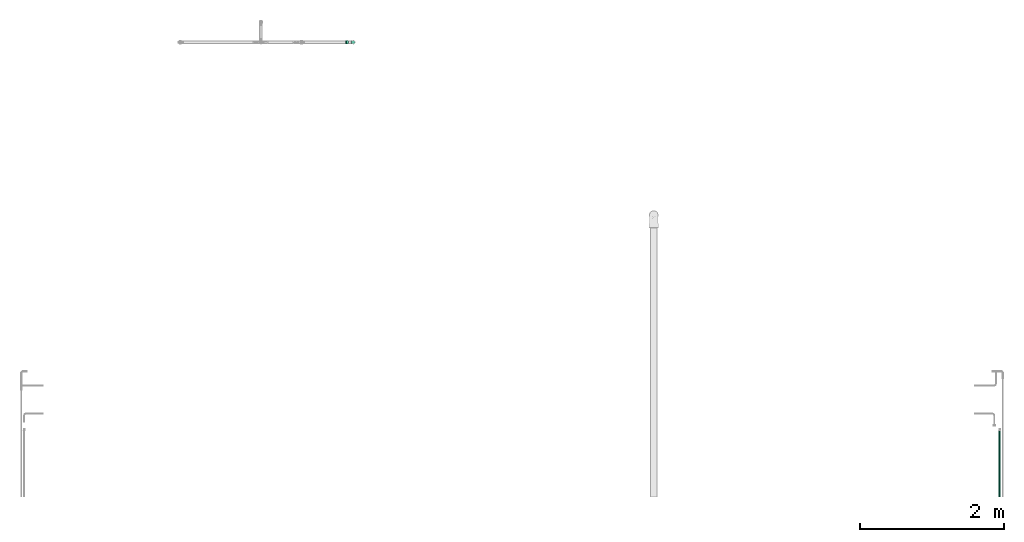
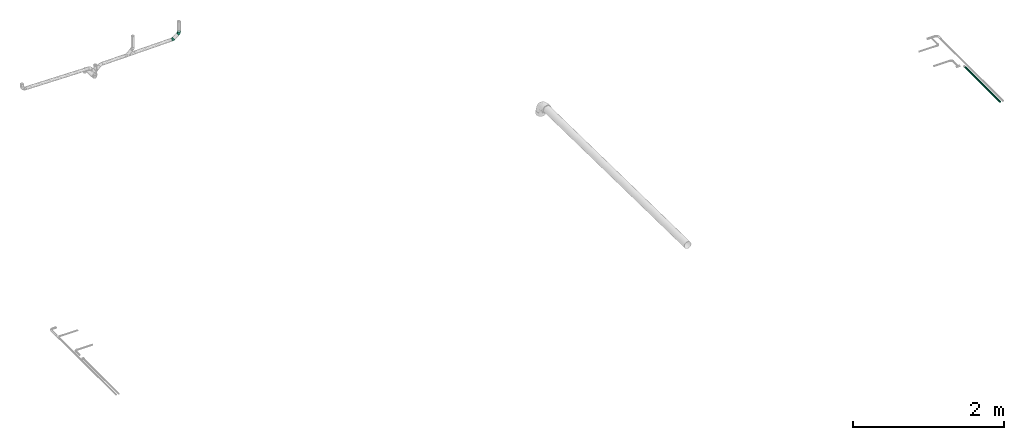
# One storey, part 13 of 13: 2 flow fittings, 1 flow segment.
"""IFC2X3 building model written with IfcOpenShell, lengths in millimetres."""

from ifc_helpers import new_model, entity, si_unit, converted_unit, derived_unit, direction, frame, origin_with_axes, place, context, subcontext, project, spatial, open_shell, faceted_brep, surface_model, source, transform, mapped, type_object, element, save


model = new_model("IFC2X3")

# Units and contexts
model_context = context("Model", 3, precision=0.01, world=frame((0.0, 4.29681676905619e-09, 0.0)), true_north=direction((4.01073788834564e-13, 1.0)))
plan_context = context("Plan", 3, precision=0.01, world=frame((0.0, 4.29681676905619e-09, 0.0)), true_north=direction((4.01073788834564e-13, 1.0)))
body_context = subcontext(model_context, "Body", "Model", "MODEL_VIEW")
ifc_project = project(units=[converted_unit("PLANEANGLEUNIT", "DEGREE", entity("IfcPositiveLengthMeasure", 0.0174532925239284), si_unit("PLANEANGLEUNIT", "RADIAN"), dimensions=[0, 0, 0, 0, 0, 0, 0]), si_unit("AREAUNIT", "SQUARE_METRE"), si_unit("LENGTHUNIT", "METRE", prefix="MILLI"), si_unit("MASSUNIT", "GRAM", prefix="KILO"), si_unit("POWERUNIT", "WATT"), si_unit("PRESSUREUNIT", "PASCAL", prefix="KILO"), si_unit("FORCEUNIT", "NEWTON", prefix="KILO"), si_unit("ELECTRICVOLTAGEUNIT", "VOLT"), si_unit("ELECTRICCURRENTUNIT", "AMPERE"), si_unit("THERMODYNAMICTEMPERATUREUNIT", "DEGREE_CELSIUS"), si_unit("TIMEUNIT", "SECOND"), si_unit("VOLUMEUNIT", "CUBIC_METRE"), derived_unit("LINEARVELOCITYUNIT", [(si_unit("LENGTHUNIT", "METRE"), 1), (si_unit("TIMEUNIT", "SECOND"), -1)]), derived_unit("VOLUMETRICFLOWRATEUNIT", [(si_unit("VOLUMEUNIT", "CUBIC_METRE"), 1), (si_unit("TIMEUNIT", "SECOND"), -1)]), derived_unit("THERMALTRANSMITTANCEUNIT", [(si_unit("POWERUNIT", "WATT"), 1), (si_unit("THERMODYNAMICTEMPERATUREUNIT", "KELVIN"), -1), (si_unit("AREAUNIT", "SQUARE_METRE"), -1)]), derived_unit("SOUNDPRESSUREUNIT", [(si_unit("PRESSUREUNIT", "PASCAL"), 1)])], contexts=[model_context, plan_context])

# Site, building, storey
site_placement = place(None, frame((0.0, -4.29681676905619e-09, 0.0), z_axis=(0.0, 0.0, 1.0), x_axis=(1.0, 0.0, 0.0)))
site = spatial("IfcSite", under=ifc_project, at=site_placement, Name="ENGM", CompositionType="ELEMENT")
building_placement = place(site_placement, frame((0.0, 4.29681676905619e-09, 0.0), z_axis=(0.0, 0.0, 1.0), x_axis=(1.0, 0.0, 0.0)))
building = spatial("IfcBuilding", under=site, at=building_placement, Name="TI", CompositionType="ELEMENT")
storey_placement = place(building_placement, frame((0.0, 0.0, 210900.0), z_axis=(0.0, 0.0, 1.0), x_axis=(1.0, 0.0, 0.0)))
storey = spatial("IfcBuildingStorey", under=building, at=storey_placement, Name="Nivå F", CompositionType="ELEMENT", Elevation=210900.0)

# Flow fittings
pipe_fitting_type = type_object("IfcPipeFittingType", Name="magi_pipe_elbow_short_001", PredefinedType="BEND")
shared_shape_1 = source(origin_with_axes(), body_context, "Body", "SurfaceModel", [
    surface_model("IfcShellBasedSurfaceModel", [(-15.92936, 6.47048, -24.14815), (-15.92936, 0.0, -25.0), (-15.92936, 24.14815, -6.47048), (-15.92936, 12.5, -21.65064), (-15.92936, 21.65064, -12.5), (-15.92936, 17.67767, -17.67767), (-15.92936, -17.67767, -17.67767), (-15.92936, -12.5, -21.65064), (-15.92936, -6.47048, -24.14815), (-15.92936, -21.65064, -12.5), (-15.92936, -24.14815, -6.47048), (-15.92936, -12.5, 21.65064), (-15.92936, -25.0, 0.0), (-15.92936, -24.14815, 6.47048), (-15.92936, 24.14815, 6.47048), (-15.92936, 25.0, 0.0), (-15.92936, 6.47048, 24.14815), (-15.92936, 21.65064, 12.5), (-15.92936, 17.67767, 17.67767), (-15.92936, 12.5, 21.65064), (-15.92936, -21.65064, 12.5), (-15.92936, -17.67767, 17.67767), (-15.92936, -6.47048, 24.14815), (-15.92936, 0.0, 25.0), (12.99373, 9.21453, -25.0), (9.25081, 14.49256, -24.14815), (5.76296, 19.4109, -21.65064), (2.76787, 23.63437, -17.67767), (23.21959, -5.20531, -17.67767), (0.46966, 26.87516, -12.5), (26.96251, -10.48334, 6.47048), (16.73665, 3.9365, -24.14815), (20.2245, -0.98184, -21.65064), (26.96251, -10.48334, -6.47048), (25.5178, -8.4461, -12.5), (27.45528, -11.17821, 0.0), (-0.97505, 28.9124, -6.47048), (9.25081, 14.49256, 24.14815), (-1.46782, 29.60726, 0.0), (-0.97505, 28.9124, 6.47048), (5.76296, 19.4109, 21.65064), (0.46966, 26.87516, 12.5), (2.76787, 23.63437, 17.67767), (23.21959, -5.20531, 17.67767), (25.5178, -8.4461, 12.5), (16.73665, 3.9365, 24.14815), (20.2245, -0.98184, 21.65064), (12.99373, 9.21453, 25.0), (-6.26646, -19.42706, 14.87076), (2.38959, -7.50057, 22.75776), (-7.98642, -9.37451, 22.95478), (-2.52114, -14.31372, 19.45813), (16.34942, -12.22193, 14.87076), (-3.86977, -2.46529, 24.70434), (-3.62659, -23.0876, 0.0), (1.43776, -22.58235, 4.27837), (-1.52348, 4.78198, 24.87036), (-1.90043, -21.98257, 8.96599), (5.44504, -17.0912, 14.43189), (11.9374, -3.02704, 22.95478), (-6.67183, 20.94192, 15.64089), (-5.22581, 16.40309, 20.19291), (11.31449, -19.45651, 4.4068), (14.26627, -16.83206, 8.96599), (11.14384, -9.82406, 19.48362), (-8.20001, 25.73867, 4.7882), (-8.3405, 26.17965, 0.0), (-7.70662, 24.18999, 10.00244), (-5.39311, 10.42788, 23.30475), (6.83722, -21.46106, 0.0), (6.99875, 1.4339, 24.72374), (16.31354, -16.73493, 0.0), (-6.5384, -2.87886, -24.72374), (11.31449, -19.45651, -4.4068), (1.43776, -22.58235, -4.27837), (-1.90043, -21.98257, -8.96599), (4.58269, 0.22756, -24.70434), (-1.52348, 4.78198, -24.87036), (-6.67183, 20.94192, -15.64089), (-5.22582, 16.40309, -20.19291), (14.26627, -16.83206, -8.96599), (-8.20001, 25.73867, -4.7882), (-7.70662, 24.18999, -10.00244), (10.33645, -10.21745, -19.45813), (5.44504, -17.0912, -14.43189), (-6.26646, -19.42706, -14.87076), (-3.40729, -14.45987, -19.48362), (-1.63292, 11.62583, -23.30475), (-7.98642, -9.37451, -22.95478), (2.38959, -7.50057, -22.75776), (11.9374, -3.02704, -22.95478), (16.34942, -12.22193, -14.87076)], [open_shell([[[0, 1, 2]], [[3, 0, 2]], [[2, 4, 5]], [[3, 2, 5]], [[6, 2, 1]], [[7, 6, 8]], [[6, 1, 8]], [[9, 10, 6]], [[11, 6, 10]], [[10, 12, 13]], [[2, 6, 11]], [[14, 15, 16]], [[17, 14, 18]], [[14, 16, 19]], [[18, 14, 19]], [[11, 16, 15]], [[20, 21, 13]], [[11, 13, 21]], [[10, 13, 11]], [[11, 22, 16]], [[22, 23, 16]], [[15, 2, 11]], [[24, 25, 26]], [[24, 26, 27]], [[28, 27, 29]], [[27, 28, 24]], [[29, 30, 28]], [[31, 28, 32]], [[31, 24, 28]], [[28, 33, 34]], [[35, 33, 30]], [[33, 28, 30]], [[29, 36, 30]], [[37, 38, 39]], [[40, 39, 41]], [[40, 37, 39]], [[40, 41, 42]], [[38, 37, 43]], [[30, 43, 44]], [[30, 38, 43]], [[43, 45, 46]], [[43, 37, 45]], [[47, 45, 37]], [[38, 30, 36]], [[20, 48, 21]], [[49, 50, 51]], [[11, 21, 51]], [[44, 43, 52]], [[23, 22, 53]], [[22, 11, 50]], [[13, 54, 55]], [[53, 56, 23]], [[23, 56, 16]], [[47, 37, 56]], [[48, 57, 58]], [[46, 45, 59]], [[18, 60, 17]], [[61, 18, 19]], [[57, 55, 62]], [[58, 57, 63]], [[58, 52, 64]], [[15, 65, 66]], [[20, 13, 57]], [[15, 14, 65]], [[14, 17, 67]], [[19, 16, 68]], [[68, 61, 19]], [[48, 51, 21]], [[69, 55, 54]], [[55, 69, 62]], [[70, 56, 53]], [[46, 64, 43]], [[42, 41, 60]], [[70, 45, 47]], [[13, 55, 57]], [[63, 44, 52]], [[57, 62, 63]], [[51, 64, 49]], [[71, 35, 30]], [[62, 30, 63]], [[69, 71, 62]], [[13, 12, 54]], [[65, 67, 39]], [[66, 65, 38]], [[49, 59, 70]], [[50, 53, 22]], [[37, 68, 56]], [[37, 40, 68]], [[58, 64, 51]], [[42, 60, 61]], [[16, 56, 68]], [[60, 41, 67]], [[40, 61, 68]], [[64, 46, 59]], [[61, 60, 18]], [[44, 63, 30]], [[30, 62, 71]], [[40, 42, 61]], [[60, 67, 17]], [[41, 39, 67]], [[56, 70, 47]], [[49, 70, 53]], [[57, 48, 20]], [[51, 48, 58]], [[64, 52, 43]], [[63, 52, 58]], [[67, 65, 14]], [[38, 65, 39]], [[51, 50, 11]], [[53, 50, 49]], [[70, 59, 45]], [[64, 59, 49]], [[8, 1, 72]], [[73, 74, 75]], [[24, 31, 76]], [[1, 0, 77]], [[78, 5, 4]], [[33, 35, 71]], [[5, 78, 79]], [[34, 33, 80]], [[2, 81, 82]], [[32, 28, 83]], [[84, 85, 86]], [[0, 3, 87]], [[74, 10, 75]], [[71, 69, 73]], [[33, 73, 80]], [[85, 75, 9]], [[7, 86, 6]], [[26, 25, 87]], [[9, 75, 10]], [[6, 85, 9]], [[88, 7, 8]], [[89, 88, 72]], [[0, 87, 77]], [[86, 7, 88]], [[15, 66, 81]], [[73, 75, 80]], [[38, 36, 81]], [[25, 77, 87]], [[33, 71, 73]], [[82, 4, 2]], [[78, 29, 27]], [[89, 83, 86]], [[87, 79, 26]], [[77, 76, 72]], [[3, 79, 87]], [[5, 79, 3]], [[84, 80, 75]], [[24, 77, 25]], [[90, 31, 32]], [[91, 83, 28]], [[27, 26, 79]], [[83, 89, 90]], [[80, 84, 91]], [[84, 86, 83]], [[74, 73, 69]], [[79, 78, 27]], [[54, 74, 69]], [[91, 28, 34]], [[90, 76, 31]], [[77, 24, 76]], [[54, 12, 10]], [[15, 81, 2]], [[10, 74, 54]], [[78, 4, 82]], [[36, 29, 82]], [[78, 82, 29]], [[77, 72, 1]], [[89, 72, 76]], [[86, 85, 6]], [[75, 85, 84]], [[80, 91, 34]], [[83, 91, 84]], [[38, 81, 66]], [[82, 81, 36]], [[72, 88, 8]], [[86, 88, 89]], [[83, 90, 32]], [[76, 90, 89]]])]),
])
flow_fitting_1_placement = place(storey_placement, frame((589771.1163, 576030.74709, 311.813170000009), z_axis=(0.0, -1.0, 0.0), x_axis=(0.999861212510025, 0.0, 0.0166600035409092)))
element("IfcFlowFitting", 1, at=flow_fitting_1_placement, inside=storey, type_object=pipe_fitting_type, Name="magi_pipe_elbow_short_001", context=body_context, shape_type="MappedRepresentation", body=[
    mapped(shared_shape_1, transform((0.0, 0.0, 0.0), scale=1.0)),
])
shared_shape_2 = source(origin_with_axes(), body_context, "Body", "SurfaceModel", [
    surface_model("IfcShellBasedSurfaceModel", [(-25.31311, 6.47048, -24.14815), (-25.31311, 0.0, -25.0), (-25.31311, 24.14815, -6.47048), (-25.31311, 12.5, -21.65064), (-25.31311, 21.65064, -12.5), (-25.31311, 17.67767, -17.67767), (-25.31311, -17.67767, -17.67767), (-25.31311, -12.5, -21.65064), (-25.31311, -6.47048, -24.14815), (-25.31311, -21.65064, -12.5), (-25.31311, -24.14815, -6.47048), (-25.31311, -12.5, 21.65064), (-25.31311, -25.0, 0.0), (-25.31311, -24.14815, 6.47048), (-25.31311, 24.14815, 6.47048), (-25.31311, 25.0, 0.0), (-25.31311, 6.47048, 24.14815), (-25.31311, 21.65064, 12.5), (-25.31311, 17.67767, 17.67767), (-25.31311, 12.5, 21.65064), (-25.31311, -21.65064, 12.5), (-25.31311, -17.67767, 17.67767), (-25.31311, -6.47048, 24.14815), (-25.31311, 0.0, 25.0), (14.98472, 20.40126, -25.0), (9.7698, 24.23162, -24.14815), (4.91026, 27.80095, -21.65064), (-4.47763, 34.69635, -6.47048), (0.73729, 30.866, -17.67767), (-2.46475, 33.21789, -12.5), (32.43419, 7.58463, -12.5), (20.19964, 16.5709, -24.14815), (29.23215, 9.93653, -17.67767), (25.05918, 13.00158, -21.65064), (35.13363, 5.60189, 0.0), (34.44708, 6.10617, -6.47048), (-4.47763, 34.69635, 6.47048), (4.91026, 27.80095, 21.65064), (0.73729, 30.866, 17.67767), (-2.46475, 33.21789, 12.5), (34.44708, 6.10617, 6.47048), (9.7698, 24.23162, 24.14815), (32.43419, 7.58463, 12.5), (25.05918, 13.00158, 21.65064), (29.23215, 9.93653, 17.67767), (20.19964, 16.5709, 24.14815), (14.98472, 20.40126, 25.0), (-5.16419, 35.20063, 0.0), (-13.01547, -23.06315, 0.0), (-7.89678, -21.44153, 8.43564), (-2.26022, -21.36921, 0.0), (6.01744, 14.30043, 24.87449), (8.16278, 7.24422, 24.6271), (14.86905, 4.95743, 22.75196), (3.04495, -4.35228, 22.29772), (-10.67068, -2.29045, 24.6271), (-12.79757, -9.04913, 22.75196), (-7.84389, -13.79935, 19.0853), (-3.45032, 6.81529, 24.94897), (-15.0877, 3.6157, 24.87449), (13.62582, -7.50452, 15.70921), (22.71013, -1.42232, 14.50803), (16.3049, -1.36622, 19.11712), (-13.35588, 10.45058, 23.44384), (-9.09724, 17.96943, 20.64534), (-18.04108, 15.49199, 20.1967), (7.89001, -16.46033, 5.90417), (-6.50599, 25.84433, 15.78526), (-3.53213, 23.83246, 19.24785), (-12.12702, -19.11998, 14.49847), (-15.28135, 20.97484, 15.90254), (-12.96291, 25.60514, 10.56682), (21.95563, -6.32839, 8.43564), (5.82304, -13.90341, 13.43185), (-11.67803, 28.34188, 5.41173), (-0.51636, 16.95074, 23.44384), (26.29272, -3.1629, 0.0), (-14.02117, 27.69547, 0.0), (5.06547, -9.20357, 18.74411), (-1.10389, 2.18047, 24.73967), (18.56065, -10.82839, 0.0), (8.15021, -16.0988, 0.0), (-10.67068, -2.29045, -24.6271), (7.89001, -16.46033, -5.90417), (-7.89678, -21.44153, -8.43564), (5.82304, -13.90341, -13.43185), (8.16278, 7.24422, -24.6271), (-15.0877, 3.6157, -24.87449), (-16.97802, 20.54274, -15.78526), (14.86905, 4.95743, -22.75196), (-7.85864, 24.73268, -15.90254), (-12.96291, 25.60514, -10.56682), (22.58389, -1.5496, -14.49808), (15.7443, -1.86532, -19.08408), (-15.92922, 26.18966, -5.41173), (-0.51636, 16.95074, -23.44384), (15.60576, -9.05422, -12.1565), (15.02496, -6.29923, -15.94063), (-13.35588, 10.45058, -23.44384), (-12.30217, -19.14605, -14.50829), (-8.57138, -13.95403, -19.11803), (21.95563, -6.32838, -8.43564), (-12.79757, -9.04913, -22.75196), (1.65842, -5.04998, -22.29932), (4.39533, -9.53765, -18.74807), (-1.10389, 2.18047, -24.73967), (-3.45032, 6.81529, -24.94897), (-1.80601, 23.71119, -20.1967), (-9.09724, 17.96943, -20.64534), (-17.117, 16.95496, -19.24785), (6.01744, 14.30043, -24.87449)], [open_shell([[[0, 1, 2]], [[3, 0, 2]], [[2, 4, 5]], [[3, 2, 5]], [[6, 2, 1]], [[7, 6, 8]], [[6, 1, 8]], [[9, 10, 6]], [[11, 6, 10]], [[10, 12, 13]], [[2, 6, 11]], [[14, 15, 16]], [[17, 14, 18]], [[14, 16, 19]], [[18, 14, 19]], [[11, 16, 15]], [[20, 21, 13]], [[11, 13, 21]], [[10, 13, 11]], [[11, 22, 16]], [[22, 23, 16]], [[15, 2, 11]], [[24, 25, 26]], [[24, 26, 27]], [[28, 29, 27]], [[28, 27, 26]], [[24, 27, 30]], [[31, 32, 33]], [[32, 31, 30]], [[30, 34, 35]], [[30, 31, 24]], [[27, 34, 30]], [[27, 36, 34]], [[34, 36, 37]], [[38, 36, 39]], [[37, 40, 34]], [[37, 36, 38]], [[41, 40, 37]], [[42, 43, 44]], [[42, 40, 41]], [[42, 45, 43]], [[42, 41, 45]], [[46, 45, 41]], [[36, 27, 47]], [[13, 48, 49]], [[48, 50, 49]], [[46, 51, 52]], [[52, 53, 45]], [[54, 55, 56]], [[20, 13, 49]], [[46, 41, 51]], [[57, 11, 21]], [[55, 58, 59]], [[23, 22, 55]], [[60, 61, 62]], [[22, 56, 55]], [[59, 16, 23]], [[63, 64, 65]], [[66, 49, 50]], [[38, 67, 68]], [[61, 44, 62]], [[65, 18, 19]], [[21, 20, 69]], [[17, 70, 71]], [[14, 17, 71]], [[66, 72, 73]], [[74, 15, 14]], [[73, 57, 69]], [[69, 57, 21]], [[19, 16, 63]], [[43, 62, 44]], [[53, 43, 45]], [[53, 54, 62]], [[46, 52, 45]], [[58, 75, 63]], [[42, 72, 40]], [[58, 51, 75]], [[61, 42, 44]], [[64, 63, 75]], [[72, 76, 40]], [[20, 49, 69]], [[59, 63, 16]], [[60, 72, 61]], [[14, 71, 74]], [[73, 49, 66]], [[77, 74, 47]], [[78, 54, 57]], [[36, 74, 71]], [[79, 54, 52]], [[71, 70, 67]], [[39, 36, 71]], [[39, 67, 38]], [[22, 11, 56]], [[41, 37, 75]], [[37, 68, 75]], [[17, 18, 70]], [[55, 79, 58]], [[55, 59, 23]], [[73, 69, 49]], [[54, 78, 62]], [[72, 42, 61]], [[65, 70, 18]], [[64, 68, 67]], [[11, 57, 56]], [[54, 56, 57]], [[54, 53, 52]], [[62, 43, 53]], [[13, 12, 48]], [[76, 72, 80]], [[76, 34, 40]], [[63, 59, 58]], [[75, 51, 41]], [[52, 51, 58]], [[66, 50, 81]], [[72, 66, 80]], [[71, 67, 39]], [[64, 67, 70]], [[75, 68, 64]], [[37, 38, 68]], [[63, 65, 19]], [[70, 65, 64]], [[57, 73, 78]], [[60, 78, 73]], [[47, 74, 36]], [[74, 77, 15]], [[54, 79, 55]], [[52, 58, 79]], [[78, 60, 62]], [[72, 60, 73]], [[80, 66, 81]], [[82, 8, 1]], [[83, 84, 85]], [[24, 31, 86]], [[0, 87, 1]], [[4, 88, 5]], [[31, 89, 86]], [[90, 88, 91]], [[32, 92, 93]], [[2, 94, 91]], [[26, 25, 95]], [[92, 96, 97]], [[3, 98, 0]], [[84, 48, 10]], [[85, 99, 100]], [[96, 92, 101]], [[10, 9, 84]], [[102, 7, 8]], [[103, 104, 100]], [[99, 9, 6]], [[35, 34, 76]], [[6, 7, 100]], [[27, 29, 91]], [[86, 105, 106]], [[29, 28, 90]], [[15, 77, 94]], [[30, 101, 92]], [[47, 27, 94]], [[105, 103, 82]], [[28, 26, 107]], [[91, 4, 2]], [[29, 90, 91]], [[82, 102, 8]], [[108, 107, 95]], [[1, 87, 82]], [[109, 98, 3]], [[88, 109, 5]], [[99, 6, 100]], [[110, 25, 24]], [[32, 93, 33]], [[83, 101, 80]], [[83, 50, 84]], [[89, 103, 86]], [[32, 30, 92]], [[106, 110, 86]], [[101, 35, 76]], [[31, 33, 89]], [[101, 76, 80]], [[110, 95, 25]], [[106, 87, 98]], [[30, 35, 101]], [[99, 85, 84]], [[104, 103, 93]], [[108, 95, 98]], [[27, 91, 94]], [[106, 98, 95]], [[102, 103, 100]], [[84, 9, 99]], [[107, 90, 28]], [[108, 109, 88]], [[33, 93, 89]], [[103, 89, 93]], [[103, 102, 82]], [[100, 7, 102]], [[48, 84, 50]], [[48, 12, 10]], [[98, 87, 0]], [[82, 87, 106]], [[86, 110, 24]], [[95, 110, 106]], [[83, 85, 96]], [[83, 80, 81]], [[91, 88, 4]], [[108, 88, 90]], [[98, 109, 108]], [[3, 5, 109]], [[95, 107, 26]], [[90, 107, 108]], [[97, 93, 92]], [[85, 100, 104]], [[15, 94, 2]], [[94, 77, 47]], [[103, 105, 86]], [[82, 106, 105]], [[83, 96, 101]], [[85, 104, 97]], [[85, 97, 96]], [[104, 93, 97]], [[81, 50, 83]]])]),
])
flow_fitting_2_placement = place(storey_placement, frame((589866.28092, 576030.74709, 382.006709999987), z_axis=(0.0, -1.0, 0.0), x_axis=(0.805956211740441, 0.0, 0.591975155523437)))
element("IfcFlowFitting", 2, at=flow_fitting_2_placement, inside=storey, type_object=pipe_fitting_type, Name="magi_pipe_elbow_short_001", context=body_context, shape_type="MappedRepresentation", body=[
    mapped(shared_shape_2, transform((0.0, 0.0, 0.0), scale=1.0)),
])

# Flow segment
pipe_segment_type = type_object("IfcPipeSegmentType", Name="Stålrør normaltykke", PredefinedType="RIGIDSEGMENT")
flow_segment_placement = place(storey_placement, frame((598816.17776, 570651.24678, -48.6000000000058), z_axis=(0.0, 0.0, 1.0), x_axis=(0.0, -1.0, 0.0)))
element("IfcFlowSegment", 3, at=flow_segment_placement, inside=storey, type_object=pipe_segment_type, Name="Stålrør normaltykke", context=body_context, shape_type="Brep", body=[
    faceted_brep([(921.248648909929, 11.3, 0.0), (921.248648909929, 11.128327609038, -1.96222440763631), (0.0, 11.128327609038, -1.96222440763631), (0.0, 11.3, 0.0), (921.248648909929, 10.6185266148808, -3.86482761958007), (0.0, 10.6185266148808, -3.86482761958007), (921.248648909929, 9.78608706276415, -5.65000000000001), (0.0, 9.78608706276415, -5.65000000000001), (921.248648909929, 8.65630220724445, -7.2634999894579), (0.0, 8.65630220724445, -7.2634999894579), (921.248648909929, 7.26349998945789, -8.65630220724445), (0.0, 7.26349998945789, -8.65630220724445), (921.248648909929, 5.65, -9.78608706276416), (0.0, 5.65, -9.78608706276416), (921.248648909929, 3.86482761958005, -10.6185266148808), (0.0, 3.86482761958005, -10.6185266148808), (921.248648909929, 1.96222440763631, -11.128327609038), (0.0, 1.96222440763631, -11.128327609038), (921.248648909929, -2.07577632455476e-15, -11.3), (0.0, -2.07577632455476e-15, -11.3), (921.248648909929, -1.96222440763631, -11.128327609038), (0.0, -1.96222440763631, -11.128327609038), (921.248648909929, -3.86482761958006, -10.6185266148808), (0.0, -3.86482761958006, -10.6185266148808), (921.248648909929, -5.65000000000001, -9.78608706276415), (0.0, -5.65000000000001, -9.78608706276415), (921.248648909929, -7.2634999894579, -8.65630220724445), (0.0, -7.2634999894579, -8.65630220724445), (921.248648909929, -8.65630220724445, -7.26349998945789), (0.0, -8.65630220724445, -7.26349998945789), (921.248648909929, -9.78608706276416, -5.65), (0.0, -9.78608706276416, -5.65), (921.248648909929, -10.6185266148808, -3.86482761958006), (0.0, -10.6185266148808, -3.86482761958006), (921.248648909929, -11.128327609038, -1.96222440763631), (0.0, -11.128327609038, -1.96222440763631), (921.248648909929, -11.3, 1.38385088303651e-15), (0.0, -11.3, 1.38385088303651e-15), (921.248648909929, -11.128327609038, 1.96222440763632), (0.0, -11.128327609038, 1.96222440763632), (921.248648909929, -10.6185266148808, 3.86482761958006), (0.0, -10.6185266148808, 3.86482761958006), (921.248648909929, -9.78608706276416, 5.65), (0.0, -9.78608706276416, 5.65), (921.248648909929, -8.65630220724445, 7.2634999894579), (0.0, -8.65630220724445, 7.2634999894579), (921.248648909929, -7.26349998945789, 8.65630220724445), (0.0, -7.2634999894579, 8.65630220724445), (921.248648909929, -5.65, 9.78608706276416), (0.0, -5.65, 9.78608706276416), (921.248648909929, -3.86482761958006, 10.6185266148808), (0.0, -3.86482761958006, 10.6185266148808), (921.248648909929, -1.96222440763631, 11.128327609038), (0.0, -1.96222440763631, 11.128327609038), (921.248648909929, 6.91925441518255e-16, 11.3), (0.0, 6.91925441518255e-16, 11.3), (921.248648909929, 1.96222440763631, 11.128327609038), (0.0, 1.96222440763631, 11.128327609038), (921.248648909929, 3.86482761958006, 10.6185266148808), (0.0, 3.86482761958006, 10.6185266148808), (921.248648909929, 5.65, 9.78608706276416), (0.0, 5.65, 9.78608706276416), (921.248648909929, 7.26349998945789, 8.65630220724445), (0.0, 7.2634999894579, 8.65630220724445), (921.248648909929, 8.65630220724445, 7.26349998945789), (0.0, 8.65630220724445, 7.26349998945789), (921.248648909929, 9.78608706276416, 5.65), (0.0, 9.78608706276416, 5.65), (921.248648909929, 10.6185266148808, 3.86482761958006), (0.0, 10.6185266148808, 3.86482761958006), (921.248648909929, 11.128327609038, 1.96222440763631), (0.0, 11.128327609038, 1.96222440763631), (921.248648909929, 13.0979431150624, -2.30952076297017), (921.248648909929, 13.3, 0.0), (0.0, 13.3, 0.0), (0.0, 13.0979431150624, -2.30952076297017), (921.248648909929, 13.0979431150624, 2.30952076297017), (0.0, 13.0979431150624, 2.30952076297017), (921.248648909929, 12.4979118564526, 4.54886790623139), (0.0, 12.4979118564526, 4.54886790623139), (921.248648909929, 11.518137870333, 6.65), (0.0, 11.518137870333, 6.65), (921.248648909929, 10.1883910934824, 8.54907520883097), (0.0, 10.1883910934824, 8.54907520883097), (921.248648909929, 8.54907520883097, 10.1883910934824), (0.0, 8.54907520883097, 10.1883910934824), (921.248648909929, 6.65, 11.518137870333), (0.0, 6.65, 11.518137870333), (921.248648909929, 4.5488679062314, 12.4979118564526), (0.0, 4.5488679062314, 12.4979118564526), (921.248648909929, 2.30952076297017, 13.0979431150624), (0.0, 2.30952076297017, 13.0979431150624), (921.248648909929, 8.1439012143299e-16, 13.3), (0.0, 8.1439012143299e-16, 13.3), (921.248648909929, -2.30952076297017, 13.0979431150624), (0.0, -2.30952076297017, 13.0979431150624), (921.248648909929, -4.54886790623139, 12.4979118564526), (0.0, -4.54886790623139, 12.4979118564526), (921.248648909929, -6.65, 11.518137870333), (0.0, -6.65, 11.518137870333), (921.248648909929, -8.54907520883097, 10.1883910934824), (0.0, -8.54907520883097, 10.1883910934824), (921.248648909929, -10.1883910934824, 8.54907520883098), (0.0, -10.1883910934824, 8.54907520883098), (921.248648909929, -11.518137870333, 6.65), (0.0, -11.518137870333, 6.65), (921.248648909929, -12.4979118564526, 4.5488679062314), (0.0, -12.4979118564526, 4.5488679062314), (921.248648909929, -13.0979431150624, 2.30952076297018), (0.0, -13.0979431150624, 2.30952076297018), (921.248648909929, -13.3, 1.62878024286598e-15), (0.0, -13.3, 1.62878024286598e-15), (921.248648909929, -13.0979431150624, -2.30952076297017), (0.0, -13.0979431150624, -2.30952076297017), (921.248648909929, -12.4979118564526, -4.54886790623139), (0.0, -12.4979118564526, -4.54886790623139), (921.248648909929, -11.518137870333, -6.65), (0.0, -11.518137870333, -6.65), (921.248648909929, -10.1883910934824, -8.54907520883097), (0.0, -10.1883910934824, -8.54907520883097), (921.248648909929, -8.54907520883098, -10.1883910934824), (0.0, -8.54907520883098, -10.1883910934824), (921.248648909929, -6.65000000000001, -11.518137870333), (0.0, -6.65000000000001, -11.518137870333), (921.248648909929, -4.5488679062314, -12.4979118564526), (0.0, -4.5488679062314, -12.4979118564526), (921.248648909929, -2.30952076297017, -13.0979431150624), (0.0, -2.30952076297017, -13.0979431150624), (921.248648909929, -2.44317036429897e-15, -13.3), (0.0, -2.44317036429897e-15, -13.3), (921.248648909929, 2.30952076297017, -13.0979431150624), (0.0, 2.30952076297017, -13.0979431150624), (921.248648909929, 4.54886790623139, -12.4979118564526), (0.0, 4.54886790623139, -12.4979118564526), (921.248648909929, 6.65, -11.518137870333), (0.0, 6.65, -11.518137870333), (921.248648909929, 8.54907520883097, -10.1883910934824), (0.0, 8.54907520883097, -10.1883910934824), (921.248648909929, 10.1883910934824, -8.54907520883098), (0.0, 10.1883910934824, -8.54907520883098), (921.248648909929, 11.518137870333, -6.65000000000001), (0.0, 11.518137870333, -6.65000000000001), (921.248648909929, 12.4979118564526, -4.5488679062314), (0.0, 12.4979118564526, -4.5488679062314)], [[[0, 1, 2, 3]], [[1, 4, 5, 2]], [[4, 6, 7, 5]], [[6, 8, 9, 7]], [[8, 10, 11, 9]], [[10, 12, 13, 11]], [[12, 14, 15, 13]], [[14, 16, 17, 15]], [[16, 18, 19, 17]], [[18, 20, 21, 19]], [[20, 22, 23, 21]], [[22, 24, 25, 23]], [[24, 26, 27, 25]], [[26, 28, 29, 27]], [[28, 30, 31, 29]], [[30, 32, 33, 31]], [[32, 34, 35, 33]], [[34, 36, 37, 35]], [[36, 38, 39, 37]], [[38, 40, 41, 39]], [[40, 42, 43, 41]], [[42, 44, 45, 43]], [[44, 46, 47, 45]], [[46, 48, 49, 47]], [[48, 50, 51, 49]], [[50, 52, 53, 51]], [[52, 54, 55, 53]], [[54, 56, 57, 55]], [[56, 58, 59, 57]], [[58, 60, 61, 59]], [[60, 62, 63, 61]], [[62, 64, 65, 63]], [[64, 66, 67, 65]], [[66, 68, 69, 67]], [[68, 70, 71, 69]], [[70, 0, 3, 71]], [[72, 73, 74, 75]], [[73, 76, 77, 74]], [[76, 78, 79, 77]], [[78, 80, 81, 79]], [[80, 82, 83, 81]], [[82, 84, 85, 83]], [[84, 86, 87, 85]], [[86, 88, 89, 87]], [[88, 90, 91, 89]], [[90, 92, 93, 91]], [[92, 94, 95, 93]], [[94, 96, 97, 95]], [[96, 98, 99, 97]], [[98, 100, 101, 99]], [[100, 102, 103, 101]], [[102, 104, 105, 103]], [[104, 106, 107, 105]], [[106, 108, 109, 107]], [[108, 110, 111, 109]], [[110, 112, 113, 111]], [[112, 114, 115, 113]], [[114, 116, 117, 115]], [[116, 118, 119, 117]], [[118, 120, 121, 119]], [[120, 122, 123, 121]], [[122, 124, 125, 123]], [[124, 126, 127, 125]], [[126, 128, 129, 127]], [[128, 130, 131, 129]], [[130, 132, 133, 131]], [[132, 134, 135, 133]], [[134, 136, 137, 135]], [[136, 138, 139, 137]], [[138, 140, 141, 139]], [[140, 142, 143, 141]], [[142, 72, 75, 143]], [[75, 74, 77, 79, 81, 83, 85, 87, 89, 91, 93, 95, 97, 99, 101, 103, 105, 107, 109, 111, 113, 115, 117, 119, 121, 123, 125, 127, 129, 131, 133, 135, 137, 139, 141, 143], [3, 2, 5, 7, 9, 11, 13, 15, 17, 19, 21, 23, 25, 27, 29, 31, 33, 35, 37, 39, 41, 43, 45, 47, 49, 51, 53, 55, 57, 59, 61, 63, 65, 67, 69, 71]], [[142, 140, 138, 136, 134, 132, 130, 128, 126, 124, 122, 120, 118, 116, 114, 112, 110, 108, 106, 104, 102, 100, 98, 96, 94, 92, 90, 88, 86, 84, 82, 80, 78, 76, 73, 72], [70, 68, 66, 64, 62, 60, 58, 56, 54, 52, 50, 48, 46, 44, 42, 40, 38, 36, 34, 32, 30, 28, 26, 24, 22, 20, 18, 16, 14, 12, 10, 8, 6, 4, 1, 0]]], orient=[[False], [False], [False], [False], [False], [False], [False], [False], [False], [False], [False], [False], [False], [False], [False], [False], [False], [False], [False], [False], [False], [False], [False], [False], [False], [False], [False], [False], [False], [False], [False], [False], [False], [False], [False], [False], [False], [False], [False], [False], [False], [False], [False], [False], [False], [False], [False], [False], [False], [False], [False], [False], [False], [False], [False], [False], [False], [False], [False], [False], [False], [False], [False], [False], [False], [False], [False], [False], [False], [False], [False], [False], [False, False], [False, False]]),
])

save(model, "model.ifc")
